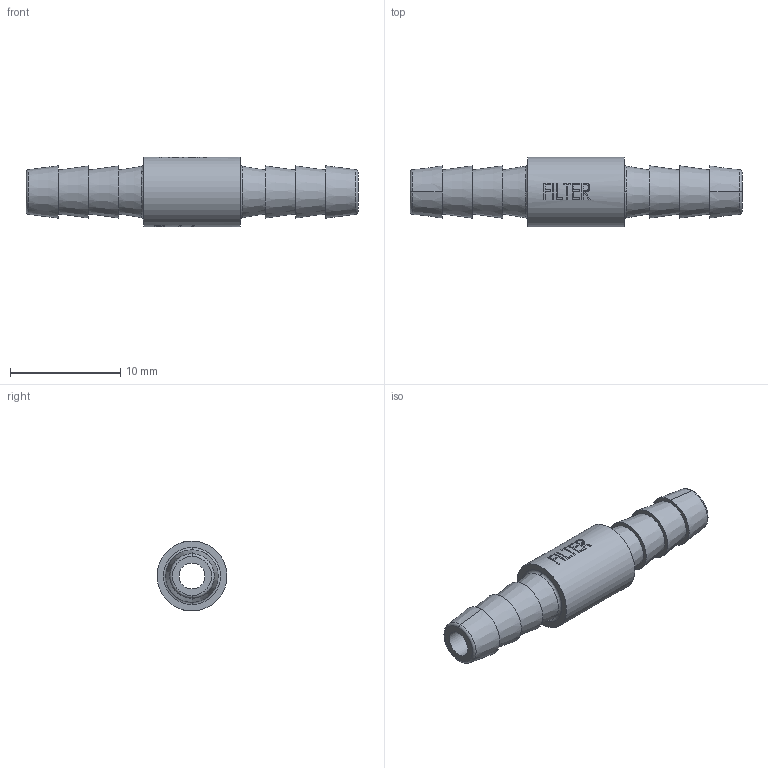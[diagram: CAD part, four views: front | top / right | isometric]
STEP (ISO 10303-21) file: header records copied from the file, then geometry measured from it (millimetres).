
FILE_DESCRIPTION(/* description */ ('SolidWorks IGES file using NURBS representation for surfaces '),/* implementation_level */ '2;1');
FILE_NAME(/* name */ 'K:\Normteile INVENTOR\Air-Logic\Filters\F-950-5-B85.IGS.ipt.stp',/* time_stamp */ '2020-05-27T10:39:48+02:00',/* author */ ('amarsh'),/* organization */ (''),/* preprocessor_version */ 'ST-DEVELOPER v18',/* originating_system */ 'Autodesk Inventor 2020',/* authorisation */ '');
FILE_SCHEMA (('AUTOMOTIVE_DESIGN { 1 0 10303 214 3 1 1 }'));
Length unit declared in the file: millimetre
Products named in the file (1): F-950-5-B85.IGS
Bounding box: 30.15 x 6.35 x 6.35 mm (x, y, z)
Volume: 468.4 mm3; surface area: 768.2 mm2
Topology: 1 solids, 1 shells, 153 faces, 412 edges, 279 vertices
Faces by surface type: plane 74, bspline 39, cylinder 22, cone 10, torus 8
Full cylindrical faces by diameter (mm): 2.36 x1, 6.35 x1
Entity records: 7727 total; most frequent: CARTESIAN_POINT 3946, ORIENTED_EDGE 824, DIRECTION 701, EDGE_CURVE 412, VERTEX_POINT 279, AXIS2_PLACEMENT_3D 254, LINE 193, VECTOR 193
